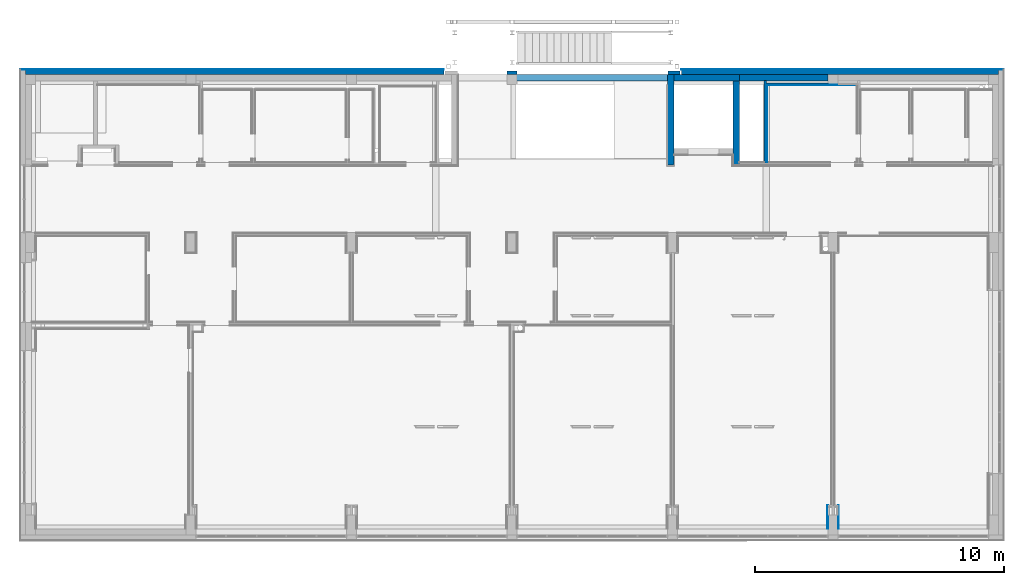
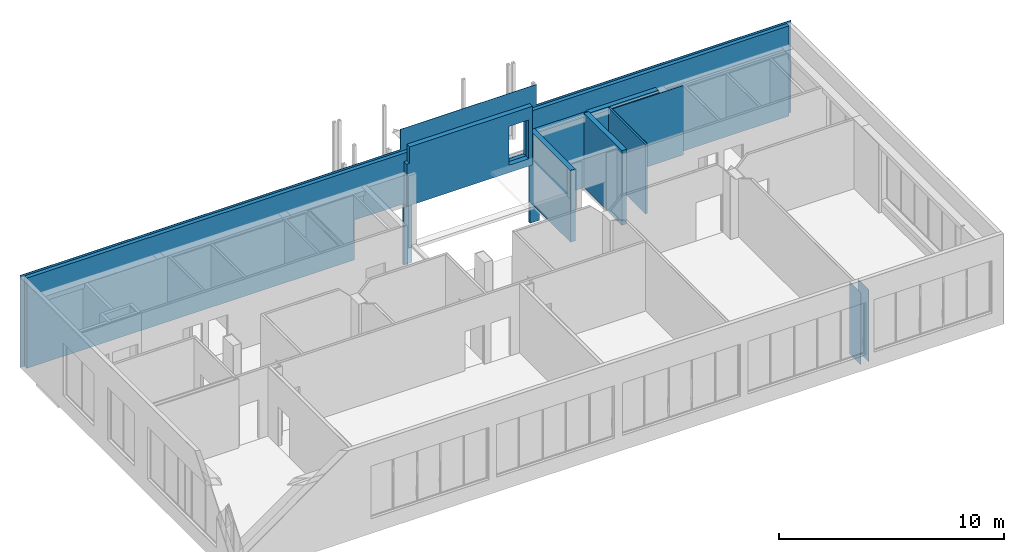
# One storey, part 24 of 29: 15 walls, 7 openings.
"""IFC2X3 building model written with IfcOpenShell, lengths in centimetres."""

from ifc_helpers import new_model, entity, si_unit, converted_unit, derived_unit, direction, frame, frame_2d, origin, place, context, subcontext, project, spatial, polyline, rectangle, extrude, clip, bounded_halfspace, material, layer, layer_set, layer_usage, type_object, element, save


model = new_model("IFC2X3")

# Units and contexts
model_context = context("Model", 3, precision=0.001, world=origin(), true_north=direction((6.12303176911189e-17, 1.0)))
body_context = subcontext(model_context, "Body", "Model", "MODEL_VIEW")
ifc_project = project(units=[si_unit("LENGTHUNIT", "METRE", prefix="CENTI"), si_unit("AREAUNIT", "SQUARE_METRE"), si_unit("VOLUMEUNIT", "CUBIC_METRE"), converted_unit("PLANEANGLEUNIT", "DEGREE", entity("IfcRatioMeasure", 0.0174532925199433), si_unit("PLANEANGLEUNIT", "RADIAN"), dimensions=[0, 0, 0, 0, 0, 0, 0]), si_unit("MASSUNIT", "GRAM", prefix="KILO"), derived_unit("MASSDENSITYUNIT", [(si_unit("MASSUNIT", "GRAM", prefix="KILO"), 1), (si_unit("LENGTHUNIT", "METRE"), -3)]), derived_unit("MOMENTOFINERTIAUNIT", [(si_unit("LENGTHUNIT", "METRE"), 4)]), si_unit("TIMEUNIT", "SECOND"), si_unit("FREQUENCYUNIT", "HERTZ"), si_unit("THERMODYNAMICTEMPERATUREUNIT", "DEGREE_CELSIUS"), derived_unit("THERMALTRANSMITTANCEUNIT", [(si_unit("MASSUNIT", "GRAM", prefix="KILO"), 1), (si_unit("THERMODYNAMICTEMPERATUREUNIT", "KELVIN"), -1), (si_unit("TIMEUNIT", "SECOND"), -3)]), derived_unit("VOLUMETRICFLOWRATEUNIT", [(si_unit("LENGTHUNIT", "METRE"), 3), (si_unit("TIMEUNIT", "SECOND"), -1)]), si_unit("ELECTRICCURRENTUNIT", "AMPERE"), si_unit("ELECTRICVOLTAGEUNIT", "VOLT"), si_unit("POWERUNIT", "WATT"), si_unit("FORCEUNIT", "NEWTON", prefix="KILO"), si_unit("ILLUMINANCEUNIT", "LUX"), si_unit("LUMINOUSFLUXUNIT", "LUMEN"), si_unit("LUMINOUSINTENSITYUNIT", "CANDELA"), derived_unit("USERDEFINED", [(si_unit("MASSUNIT", "GRAM", prefix="KILO"), -1), (si_unit("LENGTHUNIT", "METRE"), -2), (si_unit("TIMEUNIT", "SECOND"), 3), (si_unit("LUMINOUSFLUXUNIT", "LUMEN"), 1)]), derived_unit("LINEARVELOCITYUNIT", [(si_unit("LENGTHUNIT", "METRE"), 1), (si_unit("TIMEUNIT", "SECOND"), -1)]), si_unit("PRESSUREUNIT", "PASCAL"), derived_unit("USERDEFINED", [(si_unit("LENGTHUNIT", "METRE"), -2), (si_unit("MASSUNIT", "GRAM", prefix="KILO"), 1), (si_unit("TIMEUNIT", "SECOND"), -2)]), derived_unit("LINEARFORCEUNIT", [(si_unit("MASSUNIT", "GRAM", prefix="KILO"), 1), (si_unit("LENGTHUNIT", "METRE"), 1), (si_unit("TIMEUNIT", "SECOND"), -2), (si_unit("LENGTHUNIT", "METRE"), -1)]), derived_unit("PLANARFORCEUNIT", [(si_unit("MASSUNIT", "GRAM", prefix="KILO"), 1), (si_unit("LENGTHUNIT", "METRE"), 1), (si_unit("TIMEUNIT", "SECOND"), -2), (si_unit("LENGTHUNIT", "METRE"), -2)])], contexts=[model_context])

# Site, building, storey
site_placement = place(None, origin())
site = spatial("IfcSite", under=ifc_project, at=site_placement, Name="Default", CompositionType="ELEMENT")
building_placement = place(site_placement, origin())
building = spatial("IfcBuilding", under=site, at=building_placement, CompositionType="ELEMENT")
storey_placement = place(building_placement, frame((0.0, 0.0, 545.0)))
storey = spatial("IfcBuildingStorey", under=building, at=storey_placement, Name="Poziom 1K +5,45", CompositionType="ELEMENT", Elevation=544.999999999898)

# Walls
ifc_material_1 = material(Name="_Beton C30/37")
ifc_layer_1 = layer(ifc_material_1, 25.0)
ifc_layer_set_1 = layer_set([ifc_layer_1], Name="Ściana podstawowa:Ściana żelbetowa gr. 25cm")
ifc_layer_usage_1 = layer_usage(ifc_layer_set_1, "AXIS2", "NEGATIVE", 12.5)
wall_type_1 = type_object("IfcWallType", Name="Ściana podstawowa:Ściana żelbetowa gr. 25cm", PredefinedType="STANDARD", material=ifc_layer_set_1)
wall_1_placement = place(storey_placement, frame((-341.765111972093, 2105.127452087, 0.0), z_axis=(0.0, 0.0, 1.0), x_axis=(0.0, -1.0, 0.0)))
element("IfcWallStandardCase", 1, at=wall_1_placement, inside=storey, type_object=wall_type_1, material=ifc_layer_usage_1, Name="Ściana podstawowa:Ściana żelbetowa gr. 25cm", ObjectType="Ściana podstawowa:Ściana żelbetowa gr. 25cm", context=body_context, shape_type="SweptSolid", body=[
    extrude(rectangle(XDim=362.000001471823, YDim=24.9999999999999, at=frame_2d((181.000000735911, 0.0), x_axis=(-1.0, 0.0))), origin(), (0.0, 0.0, 1.0), 390.000000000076),
])
ifc_layer_usage_2 = layer_usage(ifc_layer_set_1, "AXIS2", "POSITIVE", -12.5)
wall_2_placement = place(storey_placement, frame((-78.2651144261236, 1743.12745160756, 0.0), z_axis=(0.0, 0.0, 1.0), x_axis=(0.0, 1.0, 0.0)))
element("IfcWallStandardCase", 2, at=wall_2_placement, inside=storey, type_object=wall_type_1, material=ifc_layer_usage_2, Name="Ściana podstawowa:Ściana żelbetowa gr. 25cm", ObjectType="Ściana podstawowa:Ściana żelbetowa gr. 25cm", context=body_context, shape_type="SweptSolid", body=[
    extrude(rectangle(XDim=337.0, YDim=25.0, at=frame_2d((168.5, 0.0), x_axis=(-1.0, 0.0))), origin(), (0.0, 0.0, 1.0), 405.000000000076),
])
ifc_layer_usage_3 = layer_usage(ifc_layer_set_1, "AXIS2", "POSITIVE", -12.5)
wall_3_placement = place(storey_placement, frame((-329.265111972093, 2092.62745209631, 0.0)))
element("IfcWallStandardCase", 3, at=wall_3_placement, inside=storey, type_object=wall_type_1, material=ifc_layer_usage_3, Name="Ściana podstawowa:Ściana żelbetowa gr. 25cm", ObjectType="Ściana podstawowa:Ściana żelbetowa gr. 25cm", context=body_context, shape_type="SweptSolid", body=[
    extrude(rectangle(XDim=263.49999754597, YDim=25.0000000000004, at=frame_2d((131.749998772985, 0.0), x_axis=(-1.0, 0.0))), origin(), (0.0, 0.0, 1.0), 390.000000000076),
])
ifc_layer_usage_4 = layer_usage(ifc_layer_set_1, "AXIS2", "POSITIVE", -12.5)
wall_4_placement = place(storey_placement, frame((-65.7651144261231, 2092.62745209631, 0.0)))
element("IfcWallStandardCase", 4, at=wall_4_placement, inside=storey, type_object=wall_type_1, material=ifc_layer_usage_4, Name="Ściana podstawowa:Ściana żelbetowa gr. 25cm", ObjectType="Ściana podstawowa:Ściana żelbetowa gr. 25cm", context=body_context, shape_type="SweptSolid", body=[
    extrude(rectangle(XDim=356.500005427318, YDim=25.0000000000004, at=frame_2d((178.250002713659, 4.17443857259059e-14), x_axis=(-1.0, 0.0))), origin(), (0.0, 0.0, 1.0), 395.000000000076),
])

# Wall, opening
ifc_layer_usage_5 = layer_usage(ifc_layer_set_1, "AXIS2", "NEGATIVE", 12.5)
wall_5_placement = place(storey_placement, frame((-999.265108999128, 2092.62745207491, 216.0)))
wall_5 = element("IfcWallStandardCase", 5, at=wall_5_placement, inside=storey, type_object=wall_type_1, material=ifc_layer_usage_5, Name="Ściana podstawowa:Ściana żelbetowa gr. 25cm", ObjectType="Ściana podstawowa:Ściana żelbetowa gr. 25cm", context=body_context, shape_type="Clipping", body=[
    clip(clip(extrude(rectangle(XDim=644.999997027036, YDim=25.0000000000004, at=frame_2d((322.499998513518, 0.0), x_axis=(-1.0, 0.0))), origin(), (0.0, 0.0, 1.0), 318.000000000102), bounded_halfspace(frame((15.0, 12.5000000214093, 229.0), z_axis=(1.0, 0.0, 0.0), x_axis=(0.0, 1.0, 0.0)), True, frame((15.0, 12.5000000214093, 229.0), z_axis=(1.0, 0.0, 0.0), x_axis=(0.0, 1.0, 0.0)), polyline([(0.0, 0.0), (-2.14091500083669e-08, 45.0), (-2.14091500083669e-08, 89.0), (-25.0, 89.0), (-25.0, 0.0), (-20.0, 0.0), (0.0, 0.0)]))), bounded_halfspace(frame((15.0, -12.4999999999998, 229.0), z_axis=(0.0, 0.0, -1.0), x_axis=(-1.0, 0.0, 0.0)), True, frame((15.0, -12.4999999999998, 229.0), z_axis=(0.0, 0.0, -1.0), x_axis=(-1.0, 0.0, 0.0)), polyline([(0.0, 0.0), (15.0, 0.0), (15.0, 25.0), (0.0, 25.0), (0.0, 5.00000001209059), (0.0, 0.0)]))),
])
opening_1_placement = place(wall_5_placement, origin())
element("IfcOpeningElement", 6, at=opening_1_placement, cuts=wall_5, Name="Ściana podstawowa:Ściana żelbetowa gr. 25cm", ObjectType="Opening", context=body_context, shape_type="SweptSolid", body=[
    extrude(rectangle(XDim=210.0, YDim=99.9999999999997, at=frame_2d((0.0, 1.10134124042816e-13), x_axis=(1.0, 0.0))), frame((575.499997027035, 12.5000000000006, 145.0), z_axis=(0.0, -1.0, 0.0), x_axis=(0.0, 0.0, 1.0)), (0.0, 0.0, 1.0), 25.0),
])

# Walls
ifc_material_2 = material(Name="Wełna skalna")
ifc_layer_2 = layer(ifc_material_2, 10.0)
ifc_layer_set_2 = layer_set([ifc_layer_2], Name="Ściana podstawowa:Ściana GK rdzeń gr. 10cm")
ifc_layer_usage_6 = layer_usage(ifc_layer_set_2, "AXIS2", "NEGATIVE", 5.0)
wall_type_2 = type_object("IfcWallType", Name="Ściana podstawowa:Ściana GK rdzeń gr. 10cm", PredefinedType="STANDARD", material=ifc_layer_set_2)
wall_6_placement = place(storey_placement, frame((39.2348794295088, 1750.62745198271, 13.0), z_axis=(0.0, 0.0, 1.0), x_axis=(0.0, 1.0, 0.0)))
element("IfcWallStandardCase", 7, at=wall_6_placement, inside=storey, type_object=wall_type_2, material=ifc_layer_usage_6, Name="Ściana podstawowa:Ściana GK rdzeń gr. 10cm", ObjectType="Ściana podstawowa:Ściana GK rdzeń gr. 10cm", context=body_context, shape_type="SweptSolid", body=[
    extrude(rectangle(XDim=330.500000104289, YDim=10.0, at=frame_2d((165.250000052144, 0.0), x_axis=(-1.0, 0.0))), origin(), (0.0, 0.0, 1.0), 377.000000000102),
])
ifc_layer_3 = layer(ifc_material_2, 5.0)
ifc_layer_set_3 = layer_set([ifc_layer_3], Name="Ściana podstawowa:Ściana GK rdzeń gr. 5cm")
ifc_layer_usage_7 = layer_usage(ifc_layer_set_3, "AXIS2", "NEGATIVE", 2.5)
wall_type_3 = type_object("IfcWallType", Name="Ściana podstawowa:Ściana GK rdzeń gr. 5cm", PredefinedType="STANDARD", material=ifc_layer_set_3)
wall_7_placement = place(storey_placement, frame((44.2348794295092, 2067.6274520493, 13.0)))
element("IfcWallStandardCase", 8, at=wall_7_placement, inside=storey, type_object=wall_type_3, material=ifc_layer_usage_7, Name="Ściana podstawowa:Ściana GK rdzeń gr. 5cm", ObjectType="Ściana podstawowa:Ściana GK rdzeń gr. 5cm", context=body_context, shape_type="SweptSolid", body=[
    extrude(rectangle(XDim=246.500011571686, YDim=4.99999999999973, at=frame_2d((123.250005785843, 0.0), x_axis=(-1.0, 0.0))), origin(), (0.0, 0.0, 1.0), 377.000000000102),
])
ifc_material_3 = material(Name="Tynk gipsowy")
ifc_layer_4 = layer(ifc_material_3, 2.5)
ifc_layer_set_4 = layer_set([ifc_layer_4], Name="Ściana podstawowa:Ściana GK wykonczenie gr. 2,5cm")
ifc_layer_usage_8 = layer_usage(ifc_layer_set_4, "AXIS2", "NEGATIVE", 1.25)
wall_type_4 = type_object("IfcWallType", Name="Ściana podstawowa:Ściana GK wykonczenie gr. 2,5cm", PredefinedType="STANDARD", material=ifc_layer_set_4)
wall_8_placement = place(storey_placement, frame((44.2348794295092, 2063.8774520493, 13.0)))
element("IfcWallStandardCase", 9, at=wall_8_placement, inside=storey, type_object=wall_type_4, material=ifc_layer_usage_8, Name="Ściana podstawowa:Ściana GK wykonczenie gr. 2,5cm", ObjectType="Ściana podstawowa:Ściana GK wykonczenie gr. 2,5cm", context=body_context, shape_type="SweptSolid", body=[
    extrude(rectangle(XDim=365.000000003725, YDim=2.5000000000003, at=frame_2d((182.500000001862, 0.0), x_axis=(-1.0, 0.0))), origin(), (0.0, 0.0, 1.0), 377.000000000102),
])
ifc_layer_usage_9 = layer_usage(ifc_layer_set_4, "AXIS2", "NEGATIVE", 1.25)
wall_9_placement = place(storey_placement, frame((45.4848794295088, 1753.12745198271, 13.0), z_axis=(0.0, 0.0, 1.0), x_axis=(0.0, 1.0, 0.0)))
element("IfcWallStandardCase", 10, at=wall_9_placement, inside=storey, type_object=wall_type_4, material=ifc_layer_usage_9, Name="Ściana podstawowa:Ściana GK wykonczenie gr. 2,5cm", ObjectType="Ściana podstawowa:Ściana GK wykonczenie gr. 2,5cm", context=body_context, shape_type="SweptSolid", body=[
    extrude(rectangle(XDim=309.50000006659, YDim=2.5, at=frame_2d((154.750000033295, 1.4432899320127e-15), x_axis=(-1.0, 0.0))), origin(), (0.0, 0.0, 1.0), 377.000000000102),
])
ifc_layer_usage_10 = layer_usage(ifc_layer_set_4, "AXIS2", "NEGATIVE", 1.25)
wall_10_placement = place(storey_placement, frame((331.984893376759, 280.12765760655, 0.0), z_axis=(0.0, 0.0, 1.0), x_axis=(0.0, 1.0, 0.0)))
element("IfcWallStandardCase", 11, at=wall_10_placement, inside=storey, type_object=wall_type_4, material=ifc_layer_usage_10, Name="Ściana podstawowa:Ściana GK wykonczenie gr. 2,5cm", ObjectType="Ściana podstawowa:Ściana GK wykonczenie gr. 2,5cm", context=body_context, shape_type="SweptSolid", body=[
    extrude(rectangle(XDim=94.9997944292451, YDim=2.49999999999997, at=frame_2d((47.4998972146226, 0.0), x_axis=(-1.0, 0.0))), origin(), (0.0, 0.0, 1.0), 390.000000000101),
])
ifc_layer_usage_11 = layer_usage(ifc_layer_set_4, "AXIS2", "NEGATIVE", 1.25)
wall_11_placement = place(storey_placement, frame((289.484879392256, 280.127657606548, 0.0), z_axis=(0.0, 0.0, 1.0), x_axis=(0.0, 1.0, 0.0)))
element("IfcWallStandardCase", 12, at=wall_11_placement, inside=storey, type_object=wall_type_4, material=ifc_layer_usage_11, Name="Ściana podstawowa:Ściana GK wykonczenie gr. 2,5cm", ObjectType="Ściana podstawowa:Ściana GK wykonczenie gr. 2,5cm", context=body_context, shape_type="SweptSolid", body=[
    extrude(rectangle(XDim=94.9997944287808, YDim=2.49999999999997, at=frame_2d((47.4998972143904, 0.0), x_axis=(-1.0, 0.0))), origin(), (0.0, 0.0, 1.0), 390.000000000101),
])

# Wall, openings
ifc_layer_5 = layer(ifc_material_2, 20.0)
ifc_layer_set_5 = layer_set([ifc_layer_5], Name="Ściana podstawowa:Wełna mineralna gr. 20cm")
ifc_layer_usage_12 = layer_usage(ifc_layer_set_5, "AXIS2", "NEGATIVE", 10.0)
wall_type_5 = type_object("IfcWallType", Name="Ściana podstawowa:Wełna mineralna gr. 20cm", PredefinedType="STANDARD", material=ifc_layer_set_5)
wall_12_placement = place(storey_placement, frame((975.734884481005, 2115.12745209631, 0.0), z_axis=(0.0, 0.0, 1.0), x_axis=(-1.0, 0.0, 0.0)))
wall_12 = element("IfcWallStandardCase", 13, at=wall_12_placement, inside=storey, type_object=wall_type_5, material=ifc_layer_usage_12, Name="Ściana podstawowa:Wełna mineralna gr. 20cm", ObjectType="Ściana podstawowa:Wełna mineralna gr. 20cm", context=body_context, shape_type="SweptSolid", body=[
    extrude(rectangle(XDim=3909.99999105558, YDim=19.9999999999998, at=frame_2d((1954.99999552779, -3.19744231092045e-14), x_axis=(-1.0, 0.0))), origin(), (0.0, 0.0, 1.0), 490.000000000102),
])
opening_2_placement = place(wall_12_placement, origin())
element("IfcOpeningElement", 14, at=opening_2_placement, cuts=wall_12, Name="Ściana podstawowa:Wełna mineralna gr. 20cm", ObjectType="Opening", context=body_context, shape_type="SweptSolid", body=[
    extrude(rectangle(XDim=210.0, YDim=99.9999999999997, at=frame_2d((0.0, 4.9737991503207e-14), x_axis=(0.0, 1.0))), frame((1399.4999964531, 10.0, 361.0), z_axis=(0.0, -1.0, 0.0), x_axis=(-1.0, 0.0, 0.0)), (0.0, 0.0, 1.0), 20.0),
])
opening_3_placement = place(wall_12_placement, origin())
element("IfcOpeningElement", 15, at=opening_3_placement, cuts=wall_12, Name="Ściana podstawowa:Wełna mineralna gr. 20cm", ObjectType="Opening", context=body_context, shape_type="SweptSolid", body=[
    extrude(rectangle(XDim=216.000000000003, YDim=954.499982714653, at=frame_2d((-21.6000000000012, 89.2499939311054), x_axis=(1.0, 0.0))), frame((1840.50000229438, 10.0, 129.600000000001), z_axis=(0.0, -1.0, 0.0), x_axis=(0.0, 0.0, 1.0)), (0.0, 0.0, 1.0), 20.0),
])

# Walls
ifc_layer_6 = layer(ifc_material_2, 15.0)
ifc_layer_set_6 = layer_set([ifc_layer_6], Name="Ściana podstawowa:Wełna mineralna gr. 15cm")
ifc_layer_usage_13 = layer_usage(ifc_layer_set_6, "AXIS2", "NEGATIVE", 7.5)
wall_type_6 = type_object("IfcWallType", Name="Ściana podstawowa:Wełna mineralna gr. 15cm", PredefinedType="STANDARD", material=ifc_layer_set_6)
wall_13_placement = place(storey_placement, frame((-351.76511946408, 2112.62745209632, -116.5)))
element("IfcWallStandardCase", 16, at=wall_13_placement, inside=storey, type_object=wall_type_6, material=ifc_layer_usage_13, Name="Ściana podstawowa:Wełna mineralna gr. 15cm", ObjectType="Ściana podstawowa:Wełna mineralna gr. 15cm", context=body_context, shape_type="SweptSolid", body=[
    extrude(rectangle(XDim=48.5000000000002, YDim=15.0000000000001, at=frame_2d((24.2500000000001, 0.0), x_axis=(-1.0, 0.0))), origin(), (0.0, 0.0, 1.0), 332.5),
])
ifc_layer_usage_14 = layer_usage(ifc_layer_set_6, "AXIS2", "NEGATIVE", 7.5)
wall_14_placement = place(storey_placement, frame((-999.265105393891, 2112.62745209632, -116.5)))
element("IfcWallStandardCase", 17, at=wall_14_placement, inside=storey, type_object=wall_type_6, material=ifc_layer_usage_14, Name="Ściana podstawowa:Wełna mineralna gr. 15cm", ObjectType="Ściana podstawowa:Wełna mineralna gr. 15cm", context=body_context, shape_type="SweptSolid", body=[
    extrude(rectangle(XDim=39.9999963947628, YDim=15.0000000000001, at=frame_2d((19.9999981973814, -3.81916720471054e-14), x_axis=(-1.0, 0.0))), origin(), (0.0, 0.0, 1.0), 332.500000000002),
])

# Wall, openings
ifc_layer_7 = layer(ifc_material_3, 2.0)
ifc_layer_set_7 = layer_set([ifc_layer_7], Name="Ściana podstawowa:Tynk zewnętrzny gr. 2cm")
ifc_layer_usage_15 = layer_usage(ifc_layer_set_7, "AXIS2", "NEGATIVE", 1.0)
wall_type_7 = type_object("IfcWallType", Name="Ściana podstawowa:Tynk zewnętrzny gr. 2cm", PredefinedType="STANDARD", material=ifc_layer_set_7)
wall_15_placement = place(storey_placement, frame((997.734884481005, 2126.12745209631, 0.0), z_axis=(0.0, 0.0, 1.0), x_axis=(-1.0, 0.0, 0.0)))
wall_15 = element("IfcWallStandardCase", 18, at=wall_15_placement, inside=storey, type_object=wall_type_7, material=ifc_layer_usage_15, Name="Ściana podstawowa:Tynk zewnętrzny gr. 2cm", ObjectType="Ściana podstawowa:Tynk zewnętrzny gr. 2cm", context=body_context, shape_type="SweptSolid", body=[
    extrude(rectangle(XDim=3954.00000508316, YDim=2.00000000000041, at=frame_2d((1977.00000254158, 3.84137166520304e-14), x_axis=(-1.0, 0.0))), origin(), (0.0, 0.0, 1.0), 609.000000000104),
])
opening_4_placement = place(wall_15_placement, origin())
element("IfcOpeningElement", 19, at=opening_4_placement, cuts=wall_15, Name="Ściana podstawowa:Tynk zewnętrzny gr. 2cm", ObjectType="Opening", context=body_context, shape_type="SweptSolid", body=[
    extrude(rectangle(XDim=210.0, YDim=99.9999999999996, at=frame_2d((0.0, 4.9737991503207e-14), x_axis=(0.0, 1.0))), frame((1421.4999964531, 1.0, 361.0), z_axis=(0.0, -1.0, 0.0), x_axis=(-1.0, 0.0, 0.0)), (0.0, 0.0, 1.0), 2.0),
])
opening_5_placement = place(wall_15_placement, origin())
element("IfcOpeningElement", 20, at=opening_5_placement, cuts=wall_15, Name="Ściana podstawowa:Tynk zewnętrzny gr. 2cm", ObjectType="Opening", context=body_context, shape_type="SweptSolid", body=[
    extrude(rectangle(XDim=216.0, YDim=954.499982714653, at=frame_2d((0.0, -5.6843418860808e-14), x_axis=(0.0, 1.0))), frame((1773.25000836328, 1.0, 108.0), z_axis=(0.0, -1.0, 0.0), x_axis=(1.0, 0.0, 0.0)), (0.0, 0.0, 1.0), 2.0),
])
opening_6_placement = place(wall_15_placement, origin())
element("IfcOpeningElement", 21, at=opening_6_placement, cuts=wall_15, Name="Ściana podstawowa:Tynk zewnętrzny gr. 2cm", ObjectType="Opening", context=body_context, shape_type="SweptSolid", body=[
    extrude(rectangle(XDim=109.000000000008, YDim=1950.00001160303, at=frame_2d((-1.51700874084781e-12, 1.13686837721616e-13), x_axis=(1.0, 0.0))), frame((2979.0, 1.0, 554.500000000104), z_axis=(0.0, -1.0, 0.0), x_axis=(0.0, 0.0, 1.0)), (0.0, 0.0, 1.0), 2.0),
])
opening_7_placement = place(wall_15_placement, origin())
element("IfcOpeningElement", 22, at=opening_7_placement, cuts=wall_15, Name="Ściana podstawowa:Tynk zewnętrzny gr. 2cm", ObjectType="Opening", context=body_context, shape_type="SweptSolid", body=[
    extrude(rectangle(XDim=109.0, YDim=1304.9999964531, at=frame_2d((5.6843418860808e-14, 0.0), x_axis=(0.0, 1.0))), frame((652.499998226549, 1.0, 554.500000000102), z_axis=(0.0, -1.0, 0.0), x_axis=(-1.0, 0.0, 0.0)), (0.0, 0.0, 1.0), 2.0),
])

save(model, "model.ifc")
